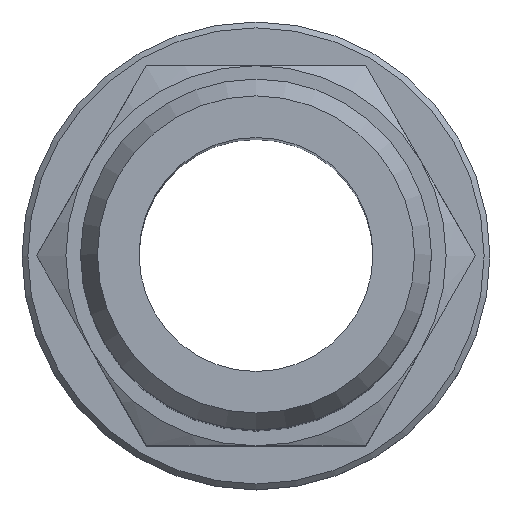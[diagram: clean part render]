
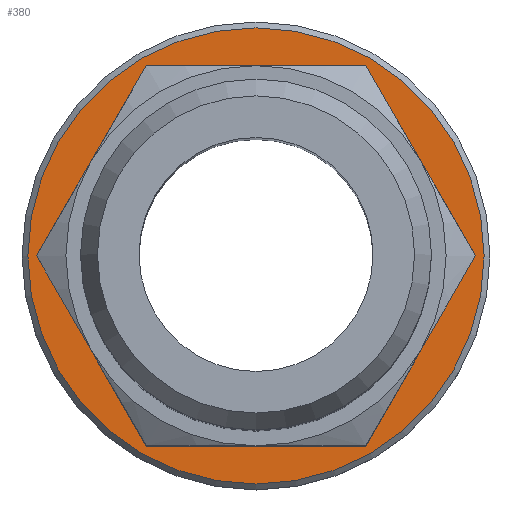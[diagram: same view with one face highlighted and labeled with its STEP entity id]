
A CAD part, top view. The second image highlights one B-rep face of the part: STEP entity #380.
In plain terms, the highlighted planar face has unit normal (0, 0, 1).
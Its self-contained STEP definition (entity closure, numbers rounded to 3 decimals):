
#380=ADVANCED_FACE('', (#390,#400), #410, .T.);
#2280=AXIS2_PLACEMENT_3D('Ax2Pl3d', #2290, #2300, #2310);
#2320=AXIS2_PLACEMENT_3D('Ax2Pl3d', #2330, #2340, #2350);
#2290=CARTESIAN_POINT('HicPkt', (22.485,21.813,17.128))
;
#2330=CARTESIAN_POINT('HicPkt', (22.485,14.013,17.128))
;
#5840=CARTESIAN_POINT('', (22.485,21.813,17.128));
#5850=CARTESIAN_POINT('', (18.732,7.513,17.128));
#5860=CARTESIAN_POINT('', (14.979,14.013,17.128));
#5870=CARTESIAN_POINT('', (18.732,7.513,17.128));
#5880=CARTESIAN_POINT('', (14.979,14.013,17.128));
#5890=CARTESIAN_POINT('', (18.732,20.513,17.128));
#5900=CARTESIAN_POINT('', (18.732,20.513,17.128));
#5910=CARTESIAN_POINT('', (26.237,20.513,17.128));
#5920=CARTESIAN_POINT('', (26.237,20.513,17.128));
#5930=CARTESIAN_POINT('', (29.99,14.013,17.128));
#5940=CARTESIAN_POINT('', (29.99,14.013,17.128));
#5950=CARTESIAN_POINT('', (26.237,7.513,17.128));
#5960=CARTESIAN_POINT('', (26.237,7.513,17.128));
#6430=CIRCLE('Circle', #2320, 7.8);
#2300=DIRECTION('Axis', (0.,0.,1.));
#2310=DIRECTION('RefDirection', (1.,0.,-0.));
#2340=DIRECTION('Axis', (0.,0.,1.));
#2350=DIRECTION('RefDirection', (1.,0.,-0.));
#8580=DIRECTION('', (0.5,-0.866,0.));
#8590=DIRECTION('', (-0.5,-0.866,0.));
#8600=DIRECTION('', (-1.,0.,0.));
#8610=DIRECTION('', (-0.5,0.866,0.));
#8620=DIRECTION('', (0.5,0.866,0.));
#8630=DIRECTION('', (1.,0.,0.));
#8840=EDGE_CURVE('', #8850, #8850, #6430, .T.);
#8860=EDGE_CURVE('', #8870, #8880, #8890, .T.);
#8900=EDGE_CURVE('', #8910, #8870, #8920, .T.);
#8930=EDGE_CURVE('', #8940, #8910, #8950, .T.);
#8960=EDGE_CURVE('', #8970, #8940, #8980, .T.);
#8990=EDGE_CURVE('', #9000, #8970, #9010, .T.);
#9020=EDGE_CURVE('', #8880, #9000, #9030, .T.);
#10160=EDGE_LOOP('Edge_loop', (#10170));
#10180=EDGE_LOOP('Edge_loop', (#10190,#10200,#10210,#10220,#10230,
#10240));
#400=FACE_BOUND('', #10180, .T.);
#390=FACE_OUTER_BOUND('Face_outer_bound', #10160, .T.);
#8890=LINE('Line', #5850, #12280);
#8920=LINE('Line', #5880, #12290);
#8950=LINE('Line', #5900, #12300);
#8980=LINE('Line', #5920, #12310);
#9010=LINE('Line', #5940, #12320);
#9030=LINE('Line', #5960, #12330);
#10170=ORIENTED_EDGE('', *, *, #8840, .T.);
#10190=ORIENTED_EDGE('', *, *, #8860, .F.);
#10200=ORIENTED_EDGE('', *, *, #8900, .F.);
#10210=ORIENTED_EDGE('', *, *, #8930, .F.);
#10220=ORIENTED_EDGE('', *, *, #8960, .F.);
#10230=ORIENTED_EDGE('', *, *, #8990, .F.);
#10240=ORIENTED_EDGE('', *, *, #9020, .F.);
#410=PLANE('Plane', #2280);
#12280=VECTOR('', #8580, 7.506);
#12290=VECTOR('', #8590, 7.506);
#12300=VECTOR('', #8600, 7.506);
#12310=VECTOR('', #8610, 7.506);
#12320=VECTOR('', #8620, 7.506);
#12330=VECTOR('', #8630, 7.506);
#8850=VERTEX_POINT('', #5840);
#8870=VERTEX_POINT('', #5860);
#8880=VERTEX_POINT('', #5870);
#8910=VERTEX_POINT('', #5890);
#8940=VERTEX_POINT('', #5910);
#8970=VERTEX_POINT('', #5930);
#9000=VERTEX_POINT('', #5950);
